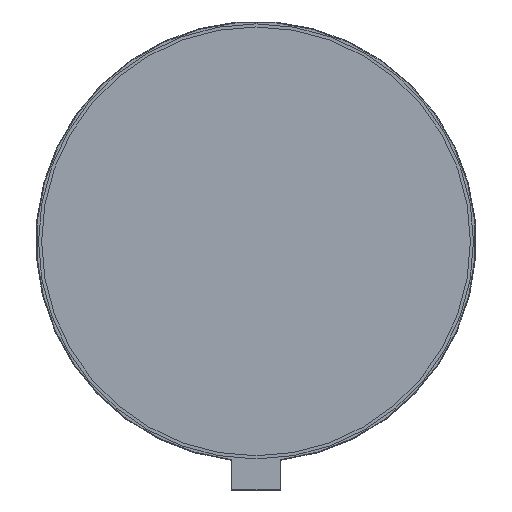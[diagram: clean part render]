
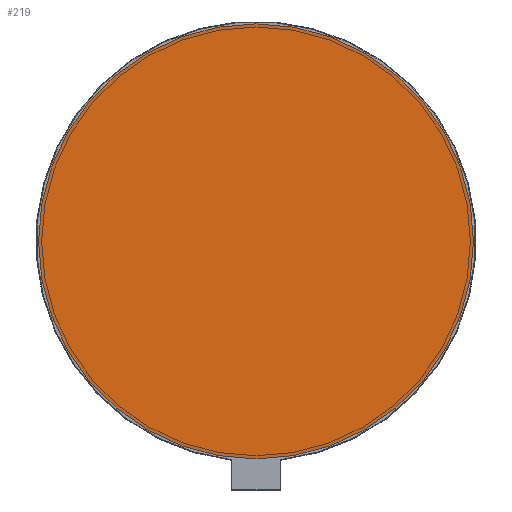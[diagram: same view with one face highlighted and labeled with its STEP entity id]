
A CAD part, top view. The second image highlights one B-rep face of the part: STEP entity #219.
In plain terms, the highlighted planar face has unit normal (0, 0, 1).
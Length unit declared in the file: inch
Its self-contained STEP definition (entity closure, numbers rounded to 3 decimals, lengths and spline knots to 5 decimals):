
#152=CARTESIAN_POINT('',(0.,0.,0.0035));
#153=DIRECTION('',(0.,0.,1.));
#154=DIRECTION('',(0.,1.,0.));
#155=AXIS2_PLACEMENT_3D('',#152,#153,#154);
#157=CARTESIAN_POINT('',(0.,0.,0.0035));
#158=DIRECTION('',(0.,0.,1.));
#159=DIRECTION('',(0.,-1.,0.));
#160=AXIS2_PLACEMENT_3D('',#157,#158,#159);
#166=CARTESIAN_POINT('',(0.,1.75,0.0035));
#167=CARTESIAN_POINT('',(0.,-1.75,0.0035));
#168=VERTEX_POINT('',#166);
#169=VERTEX_POINT('',#167);
#210=CARTESIAN_POINT('',(0.,0.,0.0035));
#211=DIRECTION('',(0.,0.,1.));
#212=DIRECTION('',(0.,1.,0.));
#213=AXIS2_PLACEMENT_3D('',#210,#211,#212);
#214=PLANE('',#213);
#215=ORIENTED_EDGE('',*,*,#190,.F.);
#216=ORIENTED_EDGE('',*,*,#204,.F.);
#217=EDGE_LOOP('',(#215,#216));
#218=FACE_OUTER_BOUND('',#217,.F.);
#219=ADVANCED_FACE('',(#218),#214,.T.);
#156=CIRCLE('',#155,1.75);
#161=CIRCLE('',#160,1.75);
#190=EDGE_CURVE('',#168,#169,#156,.T.);
#204=EDGE_CURVE('',#169,#168,#161,.T.);
